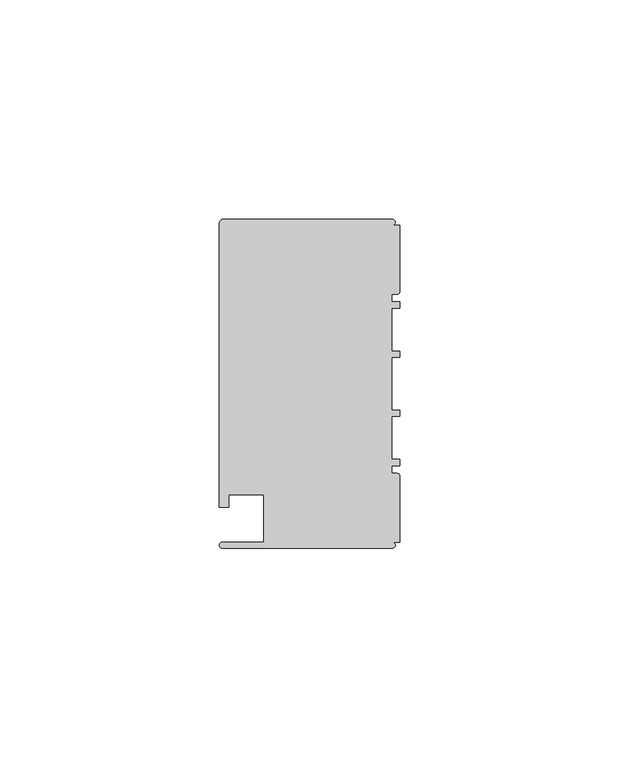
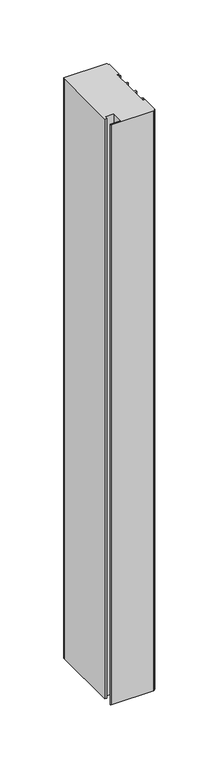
"""IFC4 building model written with IfcOpenShell, lengths in millimetres: member geometry, Прямоугольный импост : 1-AMG-1-Профиль 40Х75 Верх П."""

from ifc_helpers import new_model, si_unit, point, frame, frame_2d, origin, place, context, project, spatial, polyline, circle_curve, trimmed, segment, composite_curve, outline, extrude, source, transform, mapped, element, save


def member_e943b3b3(model_context):
    return source(origin(), model_context, "Body", "SweptSolid", [
        extrude(outline(composite_curve([segment(polyline([(-1.7, -37.5), (-40.4, -37.5)]), True, "CONTINUOUS"), segment(trimmed(circle_curve(frame_2d((-40.4, -36.8)), 0.7), [point((-40.4, -37.5))], [point((-40.4, -36.1))], False, "CARTESIAN"), True, "CONTINUOUS"), segment(polyline([(-40.4, -36.1), (-31.0, -36.1), (-31.0, -25.25), (-39.0, -25.25), (-39.0, -28.1), (-41.1, -28.1), (-41.1, 36.1)]), True, "CONTINUOUS"), segment(trimmed(circle_curve(frame_2d((-39.7541527, 36.3020763)), 1.3609334), [point((-41.1, 36.1))], [point((-40.4, 37.5))], False, "CARTESIAN"), True, "CONTINUOUS"), segment(polyline([(-40.4, 37.5), (-1.7, 37.5)]), True, "CONTINUOUS"), segment(trimmed(circle_curve(frame_2d((-1.7, 36.8)), 0.7), [point((-1.7, 37.5))], [point((-1.7, 36.1))], False, "CARTESIAN"), True, "CONTINUOUS"), segment(polyline([(-1.7, 36.1), (0.0, 36.1), (0.0, 20.95)]), True, "CONTINUOUS"), segment(trimmed(circle_curve(frame_2d((-0.5, 20.95)), 0.5), [point((0.0, 20.95))], [point((-0.5, 20.45))], False, "CARTESIAN"), True, "CONTINUOUS"), segment(polyline([(-0.5, 20.45), (-1.8, 20.45), (-1.8, 18.65), (0.0, 18.65), (0.0, 17.25), (-1.8, 17.25), (-1.8, 7.4), (0.0, 7.4), (0.0, 6.0), (-1.8, 6.0), (-1.8, -6.0), (0.0, -6.0), (0.0, -7.4), (-1.8, -7.4), (-1.8, -17.25), (0.0, -17.25), (0.0, -18.65), (-1.8, -18.65), (-1.8, -20.45), (-0.5, -20.45)]), True, "CONTINUOUS"), segment(trimmed(circle_curve(frame_2d((-0.5, -20.95)), 0.5), [point((-0.5, -20.45))], [point((0.0, -20.95))], False, "CARTESIAN"), True, "CONTINUOUS"), segment(polyline([(0.0, -20.95), (0.0, -36.1), (-1.7, -36.1)]), True, "CONTINUOUS"), segment(trimmed(circle_curve(frame_2d((-1.7, -36.8)), 0.7), [point((-1.7, -36.1))], [point((-1.7, -37.5))], False, "CARTESIAN"), True, "CONTINUOUS")], self_intersect=False)), frame((0.0, 0.0, -560.0), z_axis=(0.0, 0.0, 1.0), x_axis=(1.0, 0.0, 0.0)), (0.0, 0.0, 1.0), 560.0),
    ])


if __name__ == "__main__":
    model = new_model("IFC4")
    model_context = context("Model", 3, world=origin())
    ifc_project = project(units=[si_unit("LENGTHUNIT", "METRE", prefix="MILLI")], contexts=[model_context])
    site = spatial("IfcSite", under=ifc_project)
    building = spatial("IfcBuilding", under=site)
    placement = place(None, origin())
    member_shape = member_e943b3b3(model_context)
    element("IfcMember", 1, ObjectType="Прямоугольный импост : 1-AMG-1-Профиль 40Х75 Верх П", at=placement, inside=building, context=model_context, shape_type="MappedRepresentation", body=[
        mapped(member_shape, transform((0.0, 0.0, 0.0), x_axis=(1.0, 0.0, 0.0), y_axis=(0.0, 1.0, 0.0), z_axis=(0.0, 0.0, 1.0))),
    ])
    save(model, "model.ifc")
